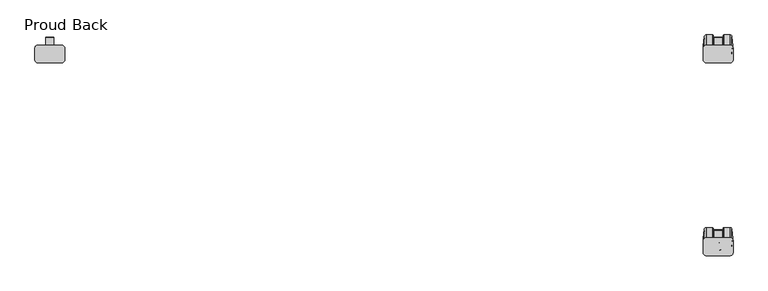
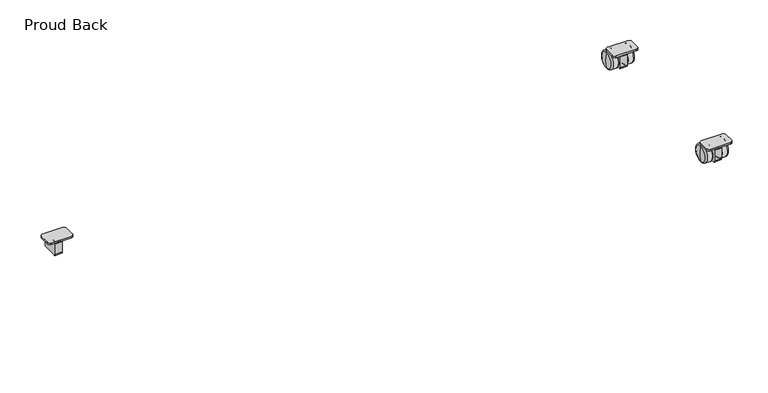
"""IFC4 building model written with IfcOpenShell, lengths in millimetres: furniture geometry, Haworth_BeHold_Modular_MobileCredenza : Proud Back."""

from ifc_helpers import new_model, si_unit, point, frame, frame_2d, origin, place, context, project, spatial, polyline, circle_curve, ellipse_curve, trimmed, segment, composite_curve, outline, extrude, source, transform, mapped, element, save
from ifc_brep_helpers import plane_surface, cylinder_surface, revolved_surface, advanced_brep


def proud_back_b9e9e623(model_context):
    return source(origin(), model_context, "Body", "SolidModel", [
        extrude(outline(composite_curve([segment(polyline([(432.996701, 432.4259308), (393.1088256, 432.4259308)]), True, "CONTINUOUS"), segment(trimmed(circle_curve(frame_2d((393.1088256, 437.9821808)), 5.55625), [point((393.1088256, 432.4259308))], [point((387.5525756, 437.9821808))], False, "CARTESIAN"), True, "CONTINUOUS"), segment(polyline([(387.5525756, 437.9821808), (387.5525756, 457.3689819)]), True, "CONTINUOUS"), segment(trimmed(circle_curve(frame_2d((393.1088256, 457.3689819)), 5.55625), [point((387.5525756, 457.3689819))], [point((393.1088256, 462.9252319))], False, "CARTESIAN"), True, "CONTINUOUS"), segment(polyline([(393.1088256, 462.9252319), (432.9541908, 462.9252319)]), True, "CONTINUOUS"), segment(trimmed(circle_curve(frame_2d((432.9541908, 457.3264717)), 5.5987602), [point((432.9541908, 462.9252319))], [point((438.552951, 457.3264717))], False, "CARTESIAN"), True, "CONTINUOUS"), segment(polyline([(438.552951, 457.3264717), (438.552951, 437.9821808)]), True, "CONTINUOUS"), segment(trimmed(circle_curve(frame_2d((432.996701, 437.9821808)), 5.55625), [point((438.552951, 437.9821808))], [point((432.996701, 432.4259308))], False, "CARTESIAN"), True, "CONTINUOUS")], self_intersect=False)), frame((0.0, 0.0, 41.1500016), z_axis=(0.0, 0.0, 1.0), x_axis=(1.0, 0.0, 0.0)), (0.0, 0.0, 1.0), 3.2999984),
        extrude(outline(composite_curve([segment(polyline([(440.8486725, 10.0187513), (440.8486725, 32.8500017), (455.7756683, 32.8500017), (455.7756683, 36.8500006), (461.8252991, 36.8500006)]), True, "CONTINUOUS"), segment(trimmed(circle_curve(frame_2d((461.8252991, 18.5003868)), 18.3496138), [point((461.8252991, 36.8500006))], [point((475.6031667, 30.6197387))], False, "CARTESIAN"), True, "CONTINUOUS"), segment(trimmed(circle_curve(frame_2d((474.2358868, 29.4170456)), 1.8209681), [point((475.6031667, 30.6197387))], [point((476.0516605, 29.5544899))], False, "CARTESIAN"), True, "CONTINUOUS"), segment(polyline([(476.0516605, 29.5544899), (476.357618, 25.5124927)]), True, "CONTINUOUS"), segment(trimmed(circle_curve(frame_2d((435.1272413, 22.3915745)), 41.3483263), [point((476.357618, 25.5124927))], [point((476.4755676, 22.3915745))], False, "CARTESIAN"), True, "CONTINUOUS"), segment(polyline([(476.4755676, 22.3915745), (476.4755676, 6.0500013), (444.8174225, 6.0500013)]), True, "CONTINUOUS"), segment(trimmed(circle_curve(frame_2d((444.8174225, 10.0187513)), 3.96875), [point((444.8174225, 6.0500013))], [point((440.8486725, 10.0187513))], False, "CARTESIAN"), True, "CONTINUOUS")], self_intersect=False)), frame((406.0537719, 0.0, 0.0), z_axis=(1.0, 0.0, 0.0), x_axis=(0.0, 1.0, 0.0)), (0.0, 0.0, 1.0), 13.9991455),
        advanced_brep(
        [(408.3792114, 447.675, 32.8500017), (413.0533447, 447.675, 32.8500017), (417.727478, 447.675, 32.8500017), (408.3792114, 447.675, 34.6500009), (417.727478, 447.675, 34.6500009), (406.829306, 447.675, 34.6500009), (419.2773834, 447.675, 34.6500009), (405.982846, 447.675, 38.6499997), (420.1238433, 447.675, 38.6499997), (408.5536193, 447.675, 38.6499997), (417.55307, 447.675, 38.6499997), (402.054016, 447.675, 41.1500016), (424.0526733, 447.675, 41.1500016), (413.0533447, 447.675, 41.1500016)],
        [
            (0, 1),
            (1, 2),
            (2, 0, circle_curve(frame((413.0533447, 447.675, 32.8500017), z_axis=(0.0, 0.0, -1.0), x_axis=(1.0, 0.0, 0.0)), 4.6741333)),
            (0, 2, circle_curve(frame((413.0533447, 447.675, 32.8500017), z_axis=(0.0, 0.0, -1.0), x_axis=(1.0, 0.0, 0.0)), 4.6741333)),
            (3, 0),
            (2, 4),
            (4, 3, circle_curve(frame((413.0533447, 447.675, 34.6500009), z_axis=(0.0, 0.0, -1.0), x_axis=(1.0, 0.0, 0.0)), 4.6741333)),
            (3, 4, circle_curve(frame((413.0533447, 447.675, 34.6500009), z_axis=(0.0, 0.0, -1.0), x_axis=(1.0, 0.0, 0.0)), 4.6741333)),
            (5, 3),
            (4, 6),
            (6, 5, circle_curve(frame((413.0533447, 447.675, 34.6500009), z_axis=(0.0, 0.0, -1.0), x_axis=(1.0, 0.0, 0.0)), 6.2240387)),
            (5, 6, circle_curve(frame((413.0533447, 447.675, 34.6500009), z_axis=(0.0, 0.0, -1.0), x_axis=(1.0, 0.0, 0.0)), 6.2240387)),
            (7, 5, circle_curve(frame((408.5516989, 447.675, 37.1040464), z_axis=(0.0, -1.0, 0.0), x_axis=(-1.0, 0.0, 0.0)), 2.9981622)),
            (6, 8, circle_curve(frame((417.5549905, 447.675, 37.1040464), z_axis=(0.0, -1.0, 0.0), x_axis=(1.0, 0.0, 0.0)), 2.9981622)),
            (8, 7, circle_curve(frame((413.0533447, 447.675, 38.6499997), z_axis=(0.0, 0.0, -1.0), x_axis=(1.0, 0.0, 0.0)), 7.0704987)),
            (7, 8, circle_curve(frame((413.0533447, 447.675, 38.6499997), z_axis=(0.0, 0.0, -1.0), x_axis=(1.0, 0.0, 0.0)), 7.0704987)),
            (9, 7),
            (8, 10),
            (10, 9, circle_curve(frame((413.0533447, 447.675, 38.6499997), z_axis=(0.0, 0.0, -1.0), x_axis=(1.0, 0.0, 0.0)), 4.4997253)),
            (9, 10, circle_curve(frame((413.0533447, 447.675, 38.6499997), z_axis=(0.0, 0.0, -1.0), x_axis=(1.0, 0.0, 0.0)), 4.4997253)),
            (11, 9),
            (10, 12),
            (12, 11, circle_curve(frame((413.0533447, 447.675, 41.1500016), z_axis=(0.0, 0.0, -1.0), x_axis=(1.0, 0.0, 0.0)), 10.9993286)),
            (11, 12, circle_curve(frame((413.0533447, 447.675, 41.1500016), z_axis=(0.0, 0.0, -1.0), x_axis=(1.0, 0.0, 0.0)), 10.9993286)),
            (13, 11),
            (12, 13),
        ],
        [
            plane_surface(frame((413.0533447, 447.675, 32.8500017), z_axis=(0.0, 0.0, -1.0), x_axis=(1.0, 0.0, 0.0))),
            cylinder_surface(frame((413.0533447, 447.675, 53.2629664), z_axis=(0.0, 0.0, 1.0), x_axis=(1.0, 0.0, 0.0)), 4.6741333),
            plane_surface(frame((413.0533447, 447.675, 34.6500009), z_axis=(0.0, 0.0, -1.0), x_axis=(1.0, 0.0, 0.0))),
            revolved_surface(trimmed(ellipse_curve(frame((417.5549905, 447.675, 37.1040464), z_axis=(0.0, -1.0, 0.0), x_axis=(1.0, 0.0, 0.0)), 2.9981622, 2.9981622), [point((419.2773834, 447.675, 34.6500009))], [point((420.1238433, 447.675, 38.6499997))], True, "CARTESIAN"), (413.0533447, 447.675, 53.2629664), (0.0, 0.0, 1.0)),
            plane_surface(frame((413.0533447, 447.675, 38.6499997), z_axis=(0.0, 0.0, 1.0), x_axis=(1.0, 0.0, 0.0))),
            revolved_surface(polyline([(417.55307, 447.675, 38.6499997), (424.0526733, 447.675, 41.1500016)]), (413.0533447, 447.675, 53.2629664), (0.0, 0.0, 1.0)),
            plane_surface(frame((413.0533447, 447.675, 41.1500016), z_axis=(0.0, 0.0, 1.0), x_axis=(1.0, 0.0, 0.0))),
        ],
        [
            (0, [[1, 2, 3]]),
            (0, [[-2, -1, 4]]),
            (1, [[5, -3, 6, 7]]),
            (1, [[-6, -4, -5, 8]]),
            (2, [[9, -7, 10, 11]]),
            (2, [[-10, -8, -9, 12]]),
            (3, [[13, -11, 14, 15]]),
            (3, [[-14, -12, -13, 16]]),
            (4, [[17, -15, 18, 19]]),
            (4, [[-18, -16, -17, 20]]),
            (5, [[21, -19, 22, 23]]),
            (5, [[-22, -20, -21, 24]]),
            (6, [[25, -23, 26]]),
            (6, [[-26, -24, -25]]),
        ],
    ),
        advanced_brep(
        [(389.4536834, 461.8252991, 2.8741812), (387.85372, 461.8252991, 18.500001), (389.4536834, 461.8252991, 34.1258208), (392.9567552, 461.8252991, 1.5e-06), (392.9567552, 461.8252991, 37.0000005), (403.1620879, 461.8252991, 1.5e-06), (403.1620879, 461.8252991, 37.0000005), (404.3527129, 461.8252991, 1.1906265), (404.3527129, 461.8252991, 35.8093755), (404.3527129, 461.8252991, 11.3500014), (404.3527129, 461.8252991, 25.6500006), (407.8524993, 461.8252991, 11.3500014), (407.8524993, 461.8252991, 25.6500006), (407.8524993, 461.8252991, 13.0457396), (407.8524993, 461.8252991, 23.9542625), (418.2530273, 461.8252991, 13.0457396), (418.2530273, 461.8252991, 23.9542625), (418.2530273, 461.8252991, 11.3500014), (418.2530273, 461.8252991, 25.6500006), (421.7528137, 461.8252991, 11.3500014), (421.7528137, 461.8252991, 25.6500006), (421.7528137, 461.8252991, 1.1906265), (421.7528137, 461.8252991, 35.8093755), (422.9434387, 461.8252991, 1.5e-06), (422.9434387, 461.8252991, 37.0000005), (433.1298304, 461.8252991, 1.5e-06), (433.1298304, 461.8252991, 37.0000005), (436.657107, 461.8252991, 2.894786), (436.657107, 461.8252991, 34.105216), (438.2529693, 461.8252991, 18.500001)],
        [
            (0, 1, circle_curve(frame((471.033307, 461.8252991, 19.1221269), z_axis=(0.0, 1.0, 0.0), x_axis=(-1.0, 0.0, 0.0)), 83.1819135)),
            (1, 2, circle_curve(frame((471.033307, 461.8252991, 17.8778751), z_axis=(0.0, 1.0, 0.0), x_axis=(-1.0, 0.0, 0.0)), 83.1819135)),
            (2, 0, circle_curve(frame((389.4536834, 461.8252991, 18.500001), z_axis=(-1.0, 0.0, 0.0), x_axis=(0.0, 0.0, 1.0)), 15.6258198)),
            (0, 2, circle_curve(frame((389.4536834, 461.8252991, 18.500001), z_axis=(-1.0, 0.0, 0.0), x_axis=(0.0, 0.0, 1.0)), 15.6258198)),
            (3, 0, circle_curve(frame((392.9567552, 461.8252991, 3.5718765), z_axis=(0.0, 1.0, 0.0), x_axis=(1.0, 0.0, 0.0)), 3.571875)),
            (2, 4, circle_curve(frame((392.9567552, 461.8252991, 33.4281255), z_axis=(0.0, 1.0, 0.0), x_axis=(1.0, 0.0, 0.0)), 3.571875)),
            (4, 3, circle_curve(frame((392.9567552, 461.8252991, 18.500001), z_axis=(-1.0, 0.0, 0.0), x_axis=(0.0, 0.0, 1.0)), 18.4999995)),
            (3, 4, circle_curve(frame((392.9567552, 461.8252991, 18.500001), z_axis=(-1.0, 0.0, 0.0), x_axis=(0.0, 0.0, 1.0)), 18.4999995)),
            (5, 3),
            (4, 6),
            (6, 5, circle_curve(frame((403.1620879, 461.8252991, 18.500001), z_axis=(-1.0, 0.0, 0.0), x_axis=(0.0, 0.0, 1.0)), 18.4999995)),
            (5, 6, circle_curve(frame((403.1620879, 461.8252991, 18.500001), z_axis=(-1.0, 0.0, 0.0), x_axis=(0.0, 0.0, 1.0)), 18.4999995)),
            (7, 5, circle_curve(frame((403.1620879, 461.8252991, 1.1906265), z_axis=(0.0, 1.0, 0.0), x_axis=(1.0, 0.0, 0.0)), 1.190625)),
            (6, 8, circle_curve(frame((403.1620879, 461.8252991, 35.8093755), z_axis=(0.0, 1.0, 0.0), x_axis=(1.0, 0.0, 0.0)), 1.190625)),
            (8, 7, circle_curve(frame((404.3527129, 461.8252991, 18.500001), z_axis=(-1.0, 0.0, 0.0), x_axis=(0.0, 0.0, 1.0)), 17.3093745)),
            (7, 8, circle_curve(frame((404.3527129, 461.8252991, 18.500001), z_axis=(-1.0, 0.0, 0.0), x_axis=(0.0, 0.0, 1.0)), 17.3093745)),
            (9, 7),
            (8, 10),
            (10, 9, circle_curve(frame((404.3527129, 461.8252991, 18.500001), z_axis=(-1.0, 0.0, 0.0), x_axis=(0.0, 0.0, 1.0)), 7.1499996)),
            (9, 10, circle_curve(frame((404.3527129, 461.8252991, 18.500001), z_axis=(-1.0, 0.0, 0.0), x_axis=(0.0, 0.0, 1.0)), 7.1499996)),
            (11, 9),
            (10, 12),
            (12, 11, circle_curve(frame((407.8524993, 461.8252991, 18.500001), z_axis=(-1.0, 0.0, 0.0), x_axis=(0.0, 0.0, 1.0)), 7.1499996)),
            (11, 12, circle_curve(frame((407.8524993, 461.8252991, 18.500001), z_axis=(-1.0, 0.0, 0.0), x_axis=(0.0, 0.0, 1.0)), 7.1499996)),
            (13, 11),
            (12, 14),
            (14, 13, circle_curve(frame((407.8524993, 461.8252991, 18.500001), z_axis=(-1.0, 0.0, 0.0), x_axis=(0.0, 0.0, 1.0)), 5.4542615)),
            (13, 14, circle_curve(frame((407.8524993, 461.8252991, 18.500001), z_axis=(-1.0, 0.0, 0.0), x_axis=(0.0, 0.0, 1.0)), 5.4542615)),
            (15, 13),
            (14, 16),
            (16, 15, circle_curve(frame((418.2530273, 461.8252991, 18.500001), z_axis=(-1.0, 0.0, 0.0), x_axis=(0.0, 0.0, 1.0)), 5.4542615)),
            (15, 16, circle_curve(frame((418.2530273, 461.8252991, 18.500001), z_axis=(-1.0, 0.0, 0.0), x_axis=(0.0, 0.0, 1.0)), 5.4542615)),
            (17, 15),
            (16, 18),
            (18, 17, circle_curve(frame((418.2530273, 461.8252991, 18.500001), z_axis=(-1.0, 0.0, 0.0), x_axis=(0.0, 0.0, 1.0)), 7.1499996)),
            (17, 18, circle_curve(frame((418.2530273, 461.8252991, 18.500001), z_axis=(-1.0, 0.0, 0.0), x_axis=(0.0, 0.0, 1.0)), 7.1499996)),
            (19, 17),
            (18, 20),
            (20, 19, circle_curve(frame((421.7528137, 461.8252991, 18.500001), z_axis=(-1.0, 0.0, 0.0), x_axis=(0.0, 0.0, 1.0)), 7.1499996)),
            (19, 20, circle_curve(frame((421.7528137, 461.8252991, 18.500001), z_axis=(-1.0, 0.0, 0.0), x_axis=(0.0, 0.0, 1.0)), 7.1499996)),
            (21, 19),
            (20, 22),
            (22, 21, circle_curve(frame((421.7528137, 461.8252991, 18.500001), z_axis=(-1.0, 0.0, 0.0), x_axis=(0.0, 0.0, 1.0)), 17.3093745)),
            (21, 22, circle_curve(frame((421.7528137, 461.8252991, 18.500001), z_axis=(-1.0, 0.0, 0.0), x_axis=(0.0, 0.0, 1.0)), 17.3093745)),
            (23, 21, circle_curve(frame((422.9434387, 461.8252991, 1.1906265), z_axis=(0.0, 1.0, 0.0), x_axis=(1.0, 0.0, 0.0)), 1.190625)),
            (22, 24, circle_curve(frame((422.9434387, 461.8252991, 35.8093755), z_axis=(0.0, 1.0, 0.0), x_axis=(1.0, 0.0, 0.0)), 1.190625)),
            (24, 23, circle_curve(frame((422.9434387, 461.8252991, 18.500001), z_axis=(-1.0, 0.0, 0.0), x_axis=(0.0, 0.0, 1.0)), 18.4999995)),
            (23, 24, circle_curve(frame((422.9434387, 461.8252991, 18.500001), z_axis=(-1.0, 0.0, 0.0), x_axis=(0.0, 0.0, 1.0)), 18.4999995)),
            (25, 23),
            (24, 26),
            (26, 25, circle_curve(frame((433.1298304, 461.8252991, 18.500001), z_axis=(-1.0, 0.0, 0.0), x_axis=(0.0, 0.0, 1.0)), 18.4999995)),
            (25, 26, circle_curve(frame((433.1298304, 461.8252991, 18.500001), z_axis=(-1.0, 0.0, 0.0), x_axis=(0.0, 0.0, 1.0)), 18.4999995)),
            (27, 25, circle_curve(frame((433.1298304, 461.8252991, 3.5963759), z_axis=(0.0, 1.0, 0.0), x_axis=(1.0, 0.0, 0.0)), 3.5963744)),
            (26, 28, circle_curve(frame((433.1298304, 461.8252991, 33.4036261), z_axis=(0.0, 1.0, 0.0), x_axis=(1.0, 0.0, 0.0)), 3.5963744)),
            (28, 27, circle_curve(frame((436.657107, 461.8252991, 18.500001), z_axis=(-1.0, 0.0, 0.0), x_axis=(0.0, 0.0, 1.0)), 15.605215)),
            (27, 28, circle_curve(frame((436.657107, 461.8252991, 18.500001), z_axis=(-1.0, 0.0, 0.0), x_axis=(0.0, 0.0, 1.0)), 15.605215)),
            (29, 27, circle_curve(frame((355.0733823, 461.8252991, 19.1221269), z_axis=(0.0, 1.0, 0.0), x_axis=(1.0, 0.0, 0.0)), 83.1819135)),
            (28, 29, circle_curve(frame((355.0733823, 461.8252991, 17.8778751), z_axis=(0.0, 1.0, 0.0), x_axis=(1.0, 0.0, 0.0)), 83.1819135)),
        ],
        [
            revolved_surface(trimmed(ellipse_curve(frame((471.033307, 461.8252991, 17.8778751), z_axis=(0.0, 1.0, 0.0), x_axis=(-1.0, 0.0, 0.0)), 83.1819135, 83.1819135), [point((387.85372, 461.8252991, 18.500001))], [point((389.4536834, 461.8252991, 34.1258208))], True, "CARTESIAN"), (364.5419293, 461.8252991, 18.500001), (1.0, 0.0, 0.0)),
            revolved_surface(trimmed(ellipse_curve(frame((392.9567552, 461.8252991, 33.4281255), z_axis=(0.0, 1.0, 0.0), x_axis=(1.0, 0.0, 0.0)), 3.571875, 3.571875), [point((389.4536834, 461.8252991, 34.1258208))], [point((392.9567552, 461.8252991, 37.0000005))], True, "CARTESIAN"), (364.5419293, 461.8252991, 18.500001), (1.0, 0.0, 0.0)),
            cylinder_surface(frame((364.5419293, 461.8252991, 18.500001), z_axis=(1.0, 0.0, 0.0), x_axis=(0.0, 0.0, 1.0)), 18.4999995),
            revolved_surface(trimmed(ellipse_curve(frame((403.1620879, 461.8252991, 35.8093755), z_axis=(0.0, 1.0, 0.0), x_axis=(1.0, 0.0, 0.0)), 1.190625, 1.190625), [point((403.1620879, 461.8252991, 37.0000005))], [point((404.3527129, 461.8252991, 35.8093755))], True, "CARTESIAN"), (364.5419293, 461.8252991, 18.500001), (1.0, 0.0, 0.0)),
            plane_surface(frame((404.3527129, 461.8252991, 18.500001), z_axis=(1.0, 0.0, 0.0), x_axis=(0.0, 0.0, 1.0))),
            cylinder_surface(frame((364.5419293, 461.8252991, 18.500001), z_axis=(1.0, 0.0, 0.0), x_axis=(0.0, 0.0, 1.0)), 7.1499996),
            plane_surface(frame((407.8524993, 461.8252991, 18.500001), z_axis=(1.0, 0.0, 0.0), x_axis=(0.0, 0.0, 1.0))),
            cylinder_surface(frame((364.5419293, 461.8252991, 18.500001), z_axis=(1.0, 0.0, 0.0), x_axis=(0.0, 0.0, 1.0)), 5.4542615),
            plane_surface(frame((418.2530273, 461.8252991, 18.500001), z_axis=(-1.0, 0.0, 0.0), x_axis=(0.0, 0.0, 1.0))),
            plane_surface(frame((421.7528137, 461.8252991, 18.500001), z_axis=(-1.0, 0.0, 0.0), x_axis=(0.0, 0.0, 1.0))),
            revolved_surface(trimmed(ellipse_curve(frame((422.9434387, 461.8252991, 35.8093755), z_axis=(0.0, 1.0, 0.0), x_axis=(1.0, 0.0, 0.0)), 1.190625, 1.190625), [point((421.7528137, 461.8252991, 35.8093755))], [point((422.9434387, 461.8252991, 37.0000005))], True, "CARTESIAN"), (364.5419293, 461.8252991, 18.500001), (1.0, 0.0, 0.0)),
            revolved_surface(trimmed(ellipse_curve(frame((433.1298304, 461.8252991, 33.4036261), z_axis=(0.0, 1.0, 0.0), x_axis=(1.0, 0.0, 0.0)), 3.5963744, 3.5963744), [point((433.1298304, 461.8252991, 37.0000005))], [point((436.657107, 461.8252991, 34.105216))], True, "CARTESIAN"), (364.5419293, 461.8252991, 18.500001), (1.0, 0.0, 0.0)),
            revolved_surface(trimmed(ellipse_curve(frame((355.0733823, 461.8252991, 17.8778751), z_axis=(0.0, 1.0, 0.0), x_axis=(1.0, 0.0, 0.0)), 83.1819135, 83.1819135), [point((436.657107, 461.8252991, 34.105216))], [point((438.2529693, 461.8252991, 18.500001))], True, "CARTESIAN"), (364.5419293, 461.8252991, 18.500001), (1.0, 0.0, 0.0)),
        ],
        [
            (0, [[1, 2, 3]]),
            (0, [[-2, -1, 4]]),
            (1, [[5, -3, 6, 7]]),
            (1, [[-6, -4, -5, 8]]),
            (2, [[9, -7, 10, 11]]),
            (2, [[-10, -8, -9, 12]]),
            (3, [[13, -11, 14, 15]]),
            (3, [[-14, -12, -13, 16]]),
            (4, [[17, -15, 18, 19]]),
            (4, [[-18, -16, -17, 20]]),
            (5, [[21, -19, 22, 23]]),
            (5, [[-22, -20, -21, 24]]),
            (6, [[25, -23, 26, 27]]),
            (6, [[-26, -24, -25, 28]]),
            (7, [[29, -27, 30, 31]]),
            (7, [[-30, -28, -29, 32]]),
            (8, [[33, -31, 34, 35]]),
            (8, [[-34, -32, -33, 36]]),
            (5, [[37, -35, 38, 39]]),
            (5, [[-38, -36, -37, 40]]),
            (9, [[41, -39, 42, 43]]),
            (9, [[-42, -40, -41, 44]]),
            (10, [[45, -43, 46, 47]]),
            (10, [[-46, -44, -45, 48]]),
            (2, [[49, -47, 50, 51]]),
            (2, [[-50, -48, -49, 52]]),
            (11, [[53, -51, 54, 55]]),
            (11, [[-54, -52, -53, 56]]),
            (12, [[57, -55, 58]]),
            (12, [[-58, -56, -57]]),
        ],
    ),
        extrude(outline(composite_curve([segment(polyline([(432.996701, 103.8134308), (393.1088256, 103.8134308)]), True, "CONTINUOUS"), segment(trimmed(circle_curve(frame_2d((393.1088256, 109.3696808)), 5.55625), [point((393.1088256, 103.8134308))], [point((387.5525756, 109.3696808))], False, "CARTESIAN"), True, "CONTINUOUS"), segment(polyline([(387.5525756, 109.3696808), (387.5525756, 128.7564819)]), True, "CONTINUOUS"), segment(trimmed(circle_curve(frame_2d((393.1088256, 128.7564819)), 5.55625), [point((387.5525756, 128.7564819))], [point((393.1088256, 134.3127319))], False, "CARTESIAN"), True, "CONTINUOUS"), segment(polyline([(393.1088256, 134.3127319), (432.9541908, 134.3127319)]), True, "CONTINUOUS"), segment(trimmed(circle_curve(frame_2d((432.9541908, 128.7139717)), 5.5987602), [point((432.9541908, 134.3127319))], [point((438.552951, 128.7139717))], False, "CARTESIAN"), True, "CONTINUOUS"), segment(polyline([(438.552951, 128.7139717), (438.552951, 109.3696808)]), True, "CONTINUOUS"), segment(trimmed(circle_curve(frame_2d((432.996701, 109.3696808)), 5.55625), [point((438.552951, 109.3696808))], [point((432.996701, 103.8134308))], False, "CARTESIAN"), True, "CONTINUOUS")], self_intersect=False)), frame((0.0, 0.0, 41.1500016), z_axis=(0.0, 0.0, 1.0), x_axis=(1.0, 0.0, 0.0)), (0.0, 0.0, 1.0), 3.2999984),
        extrude(outline(composite_curve([segment(polyline([(112.2361725, 10.0187513), (112.2361725, 32.8500017), (127.1631683, 32.8500017), (127.1631683, 36.8500006), (133.2127991, 36.8500006)]), True, "CONTINUOUS"), segment(trimmed(circle_curve(frame_2d((133.2127991, 18.5003868)), 18.3496138), [point((133.2127991, 36.8500006))], [point((146.9906667, 30.6197387))], False, "CARTESIAN"), True, "CONTINUOUS"), segment(trimmed(circle_curve(frame_2d((145.6233868, 29.4170456)), 1.8209681), [point((146.9906667, 30.6197387))], [point((147.4391605, 29.5544899))], False, "CARTESIAN"), True, "CONTINUOUS"), segment(polyline([(147.4391605, 29.5544899), (147.745118, 25.5124927)]), True, "CONTINUOUS"), segment(trimmed(circle_curve(frame_2d((106.5147413, 22.3915745)), 41.3483263), [point((147.745118, 25.5124927))], [point((147.8630676, 22.3915745))], False, "CARTESIAN"), True, "CONTINUOUS"), segment(polyline([(147.8630676, 22.3915745), (147.8630676, 6.0500013), (116.2049225, 6.0500013)]), True, "CONTINUOUS"), segment(trimmed(circle_curve(frame_2d((116.2049225, 10.0187513)), 3.96875), [point((116.2049225, 6.0500013))], [point((112.2361725, 10.0187513))], False, "CARTESIAN"), True, "CONTINUOUS")], self_intersect=False)), frame((406.0537719, 0.0, 0.0), z_axis=(1.0, 0.0, 0.0), x_axis=(0.0, 1.0, 0.0)), (0.0, 0.0, 1.0), 13.9991455),
        advanced_brep(
        [(408.3792114, 119.0625, 32.8500017), (413.0533447, 119.0625, 32.8500017), (417.727478, 119.0625, 32.8500017), (408.3792114, 119.0625, 34.6500009), (417.727478, 119.0625, 34.6500009), (406.829306, 119.0625, 34.6500009), (419.2773834, 119.0625, 34.6500009), (405.982846, 119.0625, 38.6499997), (420.1238433, 119.0625, 38.6499997), (408.5536193, 119.0625, 38.6499997), (417.55307, 119.0625, 38.6499997), (402.054016, 119.0625, 41.1500016), (424.0526733, 119.0625, 41.1500016), (413.0533447, 119.0625, 41.1500016)],
        [
            (0, 1),
            (1, 2),
            (2, 0, circle_curve(frame((413.0533447, 119.0625, 32.8500017), z_axis=(0.0, 0.0, -1.0), x_axis=(1.0, 0.0, 0.0)), 4.6741333)),
            (0, 2, circle_curve(frame((413.0533447, 119.0625, 32.8500017), z_axis=(0.0, 0.0, -1.0), x_axis=(1.0, 0.0, 0.0)), 4.6741333)),
            (3, 0),
            (2, 4),
            (4, 3, circle_curve(frame((413.0533447, 119.0625, 34.6500009), z_axis=(0.0, 0.0, -1.0), x_axis=(1.0, 0.0, 0.0)), 4.6741333)),
            (3, 4, circle_curve(frame((413.0533447, 119.0625, 34.6500009), z_axis=(0.0, 0.0, -1.0), x_axis=(1.0, 0.0, 0.0)), 4.6741333)),
            (5, 3),
            (4, 6),
            (6, 5, circle_curve(frame((413.0533447, 119.0625, 34.6500009), z_axis=(0.0, 0.0, -1.0), x_axis=(1.0, 0.0, 0.0)), 6.2240387)),
            (5, 6, circle_curve(frame((413.0533447, 119.0625, 34.6500009), z_axis=(0.0, 0.0, -1.0), x_axis=(1.0, 0.0, 0.0)), 6.2240387)),
            (7, 5, circle_curve(frame((408.5516989, 119.0625, 37.1040464), z_axis=(0.0, -1.0, 0.0), x_axis=(-1.0, 0.0, 0.0)), 2.9981622)),
            (6, 8, circle_curve(frame((417.5549905, 119.0625, 37.1040464), z_axis=(0.0, -1.0, 0.0), x_axis=(1.0, 0.0, 0.0)), 2.9981622)),
            (8, 7, circle_curve(frame((413.0533447, 119.0625, 38.6499997), z_axis=(0.0, 0.0, -1.0), x_axis=(1.0, 0.0, 0.0)), 7.0704987)),
            (7, 8, circle_curve(frame((413.0533447, 119.0625, 38.6499997), z_axis=(0.0, 0.0, -1.0), x_axis=(1.0, 0.0, 0.0)), 7.0704987)),
            (9, 7),
            (8, 10),
            (10, 9, circle_curve(frame((413.0533447, 119.0625, 38.6499997), z_axis=(0.0, 0.0, -1.0), x_axis=(1.0, 0.0, 0.0)), 4.4997253)),
            (9, 10, circle_curve(frame((413.0533447, 119.0625, 38.6499997), z_axis=(0.0, 0.0, -1.0), x_axis=(1.0, 0.0, 0.0)), 4.4997253)),
            (11, 9),
            (10, 12),
            (12, 11, circle_curve(frame((413.0533447, 119.0625, 41.1500016), z_axis=(0.0, 0.0, -1.0), x_axis=(1.0, 0.0, 0.0)), 10.9993286)),
            (11, 12, circle_curve(frame((413.0533447, 119.0625, 41.1500016), z_axis=(0.0, 0.0, -1.0), x_axis=(1.0, 0.0, 0.0)), 10.9993286)),
            (13, 11),
            (12, 13),
        ],
        [
            plane_surface(frame((413.0533447, 119.0625, 32.8500017), z_axis=(0.0, 0.0, -1.0), x_axis=(1.0, 0.0, 0.0))),
            cylinder_surface(frame((413.0533447, 119.0625, 53.2629664), z_axis=(0.0, 0.0, 1.0), x_axis=(1.0, 0.0, 0.0)), 4.6741333),
            plane_surface(frame((413.0533447, 119.0625, 34.6500009), z_axis=(0.0, 0.0, -1.0), x_axis=(1.0, 0.0, 0.0))),
            revolved_surface(trimmed(ellipse_curve(frame((417.5549905, 119.0625, 37.1040464), z_axis=(0.0, -1.0, 0.0), x_axis=(1.0, 0.0, 0.0)), 2.9981622, 2.9981622), [point((419.2773834, 119.0625, 34.6500009))], [point((420.1238433, 119.0625, 38.6499997))], True, "CARTESIAN"), (413.0533447, 119.0625, 53.2629664), (0.0, 0.0, 1.0)),
            plane_surface(frame((413.0533447, 119.0625, 38.6499997), z_axis=(0.0, 0.0, 1.0), x_axis=(1.0, 0.0, 0.0))),
            revolved_surface(polyline([(417.55307, 119.0625, 38.6499997), (424.0526733, 119.0625, 41.1500016)]), (413.0533447, 119.0625, 53.2629664), (0.0, 0.0, 1.0)),
            plane_surface(frame((413.0533447, 119.0625, 41.1500016), z_axis=(0.0, 0.0, 1.0), x_axis=(1.0, 0.0, 0.0))),
        ],
        [
            (0, [[1, 2, 3]]),
            (0, [[-2, -1, 4]]),
            (1, [[5, -3, 6, 7]]),
            (1, [[-6, -4, -5, 8]]),
            (2, [[9, -7, 10, 11]]),
            (2, [[-10, -8, -9, 12]]),
            (3, [[13, -11, 14, 15]]),
            (3, [[-14, -12, -13, 16]]),
            (4, [[17, -15, 18, 19]]),
            (4, [[-18, -16, -17, 20]]),
            (5, [[21, -19, 22, 23]]),
            (5, [[-22, -20, -21, 24]]),
            (6, [[25, -23, 26]]),
            (6, [[-26, -24, -25]]),
        ],
    ),
        advanced_brep(
        [(389.4536834, 133.2127991, 2.8741812), (387.85372, 133.2127991, 18.500001), (389.4536834, 133.2127991, 34.1258208), (392.9567552, 133.2127991, 1.5e-06), (392.9567552, 133.2127991, 37.0000005), (403.1620879, 133.2127991, 1.5e-06), (403.1620879, 133.2127991, 37.0000005), (404.3527129, 133.2127991, 1.1906265), (404.3527129, 133.2127991, 35.8093755), (404.3527129, 133.2127991, 11.3500014), (404.3527129, 133.2127991, 25.6500006), (407.8524993, 133.2127991, 11.3500014), (407.8524993, 133.2127991, 25.6500006), (407.8524993, 133.2127991, 13.0457396), (407.8524993, 133.2127991, 23.9542625), (418.2530273, 133.2127991, 13.0457396), (418.2530273, 133.2127991, 23.9542625), (418.2530273, 133.2127991, 11.3500014), (418.2530273, 133.2127991, 25.6500006), (421.7528137, 133.2127991, 11.3500014), (421.7528137, 133.2127991, 25.6500006), (421.7528137, 133.2127991, 1.1906265), (421.7528137, 133.2127991, 35.8093755), (422.9434387, 133.2127991, 1.5e-06), (422.9434387, 133.2127991, 37.0000005), (433.1298304, 133.2127991, 1.5e-06), (433.1298304, 133.2127991, 37.0000005), (436.657107, 133.2127991, 2.894786), (436.657107, 133.2127991, 34.105216), (438.2529693, 133.2127991, 18.500001)],
        [
            (0, 1, circle_curve(frame((471.033307, 133.2127991, 19.1221269), z_axis=(0.0, 1.0, 0.0), x_axis=(-1.0, 0.0, 0.0)), 83.1819135)),
            (1, 2, circle_curve(frame((471.033307, 133.2127991, 17.8778751), z_axis=(0.0, 1.0, 0.0), x_axis=(-1.0, 0.0, 0.0)), 83.1819135)),
            (2, 0, circle_curve(frame((389.4536834, 133.2127991, 18.500001), z_axis=(-1.0, 0.0, 0.0), x_axis=(0.0, 0.0, 1.0)), 15.6258198)),
            (0, 2, circle_curve(frame((389.4536834, 133.2127991, 18.500001), z_axis=(-1.0, 0.0, 0.0), x_axis=(0.0, 0.0, 1.0)), 15.6258198)),
            (3, 0, circle_curve(frame((392.9567552, 133.2127991, 3.5718765), z_axis=(0.0, 1.0, 0.0), x_axis=(1.0, 0.0, 0.0)), 3.571875)),
            (2, 4, circle_curve(frame((392.9567552, 133.2127991, 33.4281255), z_axis=(0.0, 1.0, 0.0), x_axis=(1.0, 0.0, 0.0)), 3.571875)),
            (4, 3, circle_curve(frame((392.9567552, 133.2127991, 18.500001), z_axis=(-1.0, 0.0, 0.0), x_axis=(0.0, 0.0, 1.0)), 18.4999995)),
            (3, 4, circle_curve(frame((392.9567552, 133.2127991, 18.500001), z_axis=(-1.0, 0.0, 0.0), x_axis=(0.0, 0.0, 1.0)), 18.4999995)),
            (5, 3),
            (4, 6),
            (6, 5, circle_curve(frame((403.1620879, 133.2127991, 18.500001), z_axis=(-1.0, 0.0, 0.0), x_axis=(0.0, 0.0, 1.0)), 18.4999995)),
            (5, 6, circle_curve(frame((403.1620879, 133.2127991, 18.500001), z_axis=(-1.0, 0.0, 0.0), x_axis=(0.0, 0.0, 1.0)), 18.4999995)),
            (7, 5, circle_curve(frame((403.1620879, 133.2127991, 1.1906265), z_axis=(0.0, 1.0, 0.0), x_axis=(1.0, 0.0, 0.0)), 1.190625)),
            (6, 8, circle_curve(frame((403.1620879, 133.2127991, 35.8093755), z_axis=(0.0, 1.0, 0.0), x_axis=(1.0, 0.0, 0.0)), 1.190625)),
            (8, 7, circle_curve(frame((404.3527129, 133.2127991, 18.500001), z_axis=(-1.0, 0.0, 0.0), x_axis=(0.0, 0.0, 1.0)), 17.3093745)),
            (7, 8, circle_curve(frame((404.3527129, 133.2127991, 18.500001), z_axis=(-1.0, 0.0, 0.0), x_axis=(0.0, 0.0, 1.0)), 17.3093745)),
            (9, 7),
            (8, 10),
            (10, 9, circle_curve(frame((404.3527129, 133.2127991, 18.500001), z_axis=(-1.0, 0.0, 0.0), x_axis=(0.0, 0.0, 1.0)), 7.1499996)),
            (9, 10, circle_curve(frame((404.3527129, 133.2127991, 18.500001), z_axis=(-1.0, 0.0, 0.0), x_axis=(0.0, 0.0, 1.0)), 7.1499996)),
            (11, 9),
            (10, 12),
            (12, 11, circle_curve(frame((407.8524993, 133.2127991, 18.500001), z_axis=(-1.0, 0.0, 0.0), x_axis=(0.0, 0.0, 1.0)), 7.1499996)),
            (11, 12, circle_curve(frame((407.8524993, 133.2127991, 18.500001), z_axis=(-1.0, 0.0, 0.0), x_axis=(0.0, 0.0, 1.0)), 7.1499996)),
            (13, 11),
            (12, 14),
            (14, 13, circle_curve(frame((407.8524993, 133.2127991, 18.500001), z_axis=(-1.0, 0.0, 0.0), x_axis=(0.0, 0.0, 1.0)), 5.4542615)),
            (13, 14, circle_curve(frame((407.8524993, 133.2127991, 18.500001), z_axis=(-1.0, 0.0, 0.0), x_axis=(0.0, 0.0, 1.0)), 5.4542615)),
            (15, 13),
            (14, 16),
            (16, 15, circle_curve(frame((418.2530273, 133.2127991, 18.500001), z_axis=(-1.0, 0.0, 0.0), x_axis=(0.0, 0.0, 1.0)), 5.4542615)),
            (15, 16, circle_curve(frame((418.2530273, 133.2127991, 18.500001), z_axis=(-1.0, 0.0, 0.0), x_axis=(0.0, 0.0, 1.0)), 5.4542615)),
            (17, 15),
            (16, 18),
            (18, 17, circle_curve(frame((418.2530273, 133.2127991, 18.500001), z_axis=(-1.0, 0.0, 0.0), x_axis=(0.0, 0.0, 1.0)), 7.1499996)),
            (17, 18, circle_curve(frame((418.2530273, 133.2127991, 18.500001), z_axis=(-1.0, 0.0, 0.0), x_axis=(0.0, 0.0, 1.0)), 7.1499996)),
            (19, 17),
            (18, 20),
            (20, 19, circle_curve(frame((421.7528137, 133.2127991, 18.500001), z_axis=(-1.0, 0.0, 0.0), x_axis=(0.0, 0.0, 1.0)), 7.1499996)),
            (19, 20, circle_curve(frame((421.7528137, 133.2127991, 18.500001), z_axis=(-1.0, 0.0, 0.0), x_axis=(0.0, 0.0, 1.0)), 7.1499996)),
            (21, 19),
            (20, 22),
            (22, 21, circle_curve(frame((421.7528137, 133.2127991, 18.500001), z_axis=(-1.0, 0.0, 0.0), x_axis=(0.0, 0.0, 1.0)), 17.3093745)),
            (21, 22, circle_curve(frame((421.7528137, 133.2127991, 18.500001), z_axis=(-1.0, 0.0, 0.0), x_axis=(0.0, 0.0, 1.0)), 17.3093745)),
            (23, 21, circle_curve(frame((422.9434387, 133.2127991, 1.1906265), z_axis=(0.0, 1.0, 0.0), x_axis=(1.0, 0.0, 0.0)), 1.190625)),
            (22, 24, circle_curve(frame((422.9434387, 133.2127991, 35.8093755), z_axis=(0.0, 1.0, 0.0), x_axis=(1.0, 0.0, 0.0)), 1.190625)),
            (24, 23, circle_curve(frame((422.9434387, 133.2127991, 18.500001), z_axis=(-1.0, 0.0, 0.0), x_axis=(0.0, 0.0, 1.0)), 18.4999995)),
            (23, 24, circle_curve(frame((422.9434387, 133.2127991, 18.500001), z_axis=(-1.0, 0.0, 0.0), x_axis=(0.0, 0.0, 1.0)), 18.4999995)),
            (25, 23),
            (24, 26),
            (26, 25, circle_curve(frame((433.1298304, 133.2127991, 18.500001), z_axis=(-1.0, 0.0, 0.0), x_axis=(0.0, 0.0, 1.0)), 18.4999995)),
            (25, 26, circle_curve(frame((433.1298304, 133.2127991, 18.500001), z_axis=(-1.0, 0.0, 0.0), x_axis=(0.0, 0.0, 1.0)), 18.4999995)),
            (27, 25, circle_curve(frame((433.1298304, 133.2127991, 3.5963759), z_axis=(0.0, 1.0, 0.0), x_axis=(1.0, 0.0, 0.0)), 3.5963744)),
            (26, 28, circle_curve(frame((433.1298304, 133.2127991, 33.4036261), z_axis=(0.0, 1.0, 0.0), x_axis=(1.0, 0.0, 0.0)), 3.5963744)),
            (28, 27, circle_curve(frame((436.657107, 133.2127991, 18.500001), z_axis=(-1.0, 0.0, 0.0), x_axis=(0.0, 0.0, 1.0)), 15.605215)),
            (27, 28, circle_curve(frame((436.657107, 133.2127991, 18.500001), z_axis=(-1.0, 0.0, 0.0), x_axis=(0.0, 0.0, 1.0)), 15.605215)),
            (29, 27, circle_curve(frame((355.0733823, 133.2127991, 19.1221269), z_axis=(0.0, 1.0, 0.0), x_axis=(1.0, 0.0, 0.0)), 83.1819135)),
            (28, 29, circle_curve(frame((355.0733823, 133.2127991, 17.8778751), z_axis=(0.0, 1.0, 0.0), x_axis=(1.0, 0.0, 0.0)), 83.1819135)),
        ],
        [
            revolved_surface(trimmed(ellipse_curve(frame((471.033307, 133.2127991, 17.8778751), z_axis=(0.0, 1.0, 0.0), x_axis=(-1.0, 0.0, 0.0)), 83.1819135, 83.1819135), [point((387.85372, 133.2127991, 18.500001))], [point((389.4536834, 133.2127991, 34.1258208))], True, "CARTESIAN"), (364.5419293, 133.2127991, 18.500001), (1.0, 0.0, 0.0)),
            revolved_surface(trimmed(ellipse_curve(frame((392.9567552, 133.2127991, 33.4281255), z_axis=(0.0, 1.0, 0.0), x_axis=(1.0, 0.0, 0.0)), 3.571875, 3.571875), [point((389.4536834, 133.2127991, 34.1258208))], [point((392.9567552, 133.2127991, 37.0000005))], True, "CARTESIAN"), (364.5419293, 133.2127991, 18.500001), (1.0, 0.0, 0.0)),
            cylinder_surface(frame((364.5419293, 133.2127991, 18.500001), z_axis=(1.0, 0.0, 0.0), x_axis=(0.0, 0.0, 1.0)), 18.4999995),
            revolved_surface(trimmed(ellipse_curve(frame((403.1620879, 133.2127991, 35.8093755), z_axis=(0.0, 1.0, 0.0), x_axis=(1.0, 0.0, 0.0)), 1.190625, 1.190625), [point((403.1620879, 133.2127991, 37.0000005))], [point((404.3527129, 133.2127991, 35.8093755))], True, "CARTESIAN"), (364.5419293, 133.2127991, 18.500001), (1.0, 0.0, 0.0)),
            plane_surface(frame((404.3527129, 133.2127991, 18.500001), z_axis=(1.0, 0.0, 0.0), x_axis=(0.0, 0.0, 1.0))),
            cylinder_surface(frame((364.5419293, 133.2127991, 18.500001), z_axis=(1.0, 0.0, 0.0), x_axis=(0.0, 0.0, 1.0)), 7.1499996),
            plane_surface(frame((407.8524993, 133.2127991, 18.500001), z_axis=(1.0, 0.0, 0.0), x_axis=(0.0, 0.0, 1.0))),
            cylinder_surface(frame((364.5419293, 133.2127991, 18.500001), z_axis=(1.0, 0.0, 0.0), x_axis=(0.0, 0.0, 1.0)), 5.4542615),
            plane_surface(frame((418.2530273, 133.2127991, 18.500001), z_axis=(-1.0, 0.0, 0.0), x_axis=(0.0, 0.0, 1.0))),
            plane_surface(frame((421.7528137, 133.2127991, 18.500001), z_axis=(-1.0, 0.0, 0.0), x_axis=(0.0, 0.0, 1.0))),
            revolved_surface(trimmed(ellipse_curve(frame((422.9434387, 133.2127991, 35.8093755), z_axis=(0.0, 1.0, 0.0), x_axis=(1.0, 0.0, 0.0)), 1.190625, 1.190625), [point((421.7528137, 133.2127991, 35.8093755))], [point((422.9434387, 133.2127991, 37.0000005))], True, "CARTESIAN"), (364.5419293, 133.2127991, 18.500001), (1.0, 0.0, 0.0)),
            revolved_surface(trimmed(ellipse_curve(frame((433.1298304, 133.2127991, 33.4036261), z_axis=(0.0, 1.0, 0.0), x_axis=(1.0, 0.0, 0.0)), 3.5963744, 3.5963744), [point((433.1298304, 133.2127991, 37.0000005))], [point((436.657107, 133.2127991, 34.105216))], True, "CARTESIAN"), (364.5419293, 133.2127991, 18.500001), (1.0, 0.0, 0.0)),
            revolved_surface(trimmed(ellipse_curve(frame((355.0733823, 133.2127991, 17.8778751), z_axis=(0.0, 1.0, 0.0), x_axis=(1.0, 0.0, 0.0)), 83.1819135, 83.1819135), [point((436.657107, 133.2127991, 34.105216))], [point((438.2529693, 133.2127991, 18.500001))], True, "CARTESIAN"), (364.5419293, 133.2127991, 18.500001), (1.0, 0.0, 0.0)),
        ],
        [
            (0, [[1, 2, 3]]),
            (0, [[-2, -1, 4]]),
            (1, [[5, -3, 6, 7]]),
            (1, [[-6, -4, -5, 8]]),
            (2, [[9, -7, 10, 11]]),
            (2, [[-10, -8, -9, 12]]),
            (3, [[13, -11, 14, 15]]),
            (3, [[-14, -12, -13, 16]]),
            (4, [[17, -15, 18, 19]]),
            (4, [[-18, -16, -17, 20]]),
            (5, [[21, -19, 22, 23]]),
            (5, [[-22, -20, -21, 24]]),
            (6, [[25, -23, 26, 27]]),
            (6, [[-26, -24, -25, 28]]),
            (7, [[29, -27, 30, 31]]),
            (7, [[-30, -28, -29, 32]]),
            (8, [[33, -31, 34, 35]]),
            (8, [[-34, -32, -33, 36]]),
            (5, [[37, -35, 38, 39]]),
            (5, [[-38, -36, -37, 40]]),
            (9, [[41, -39, 42, 43]]),
            (9, [[-42, -40, -41, 44]]),
            (10, [[45, -43, 46, 47]]),
            (10, [[-46, -44, -45, 48]]),
            (2, [[49, -47, 50, 51]]),
            (2, [[-50, -48, -49, 52]]),
            (11, [[53, -51, 54, 55]]),
            (11, [[-54, -52, -53, 56]]),
            (12, [[57, -55, 58]]),
            (12, [[-58, -56, -57]]),
        ],
    ),
        extrude(outline(composite_curve([segment(polyline([(-706.828299, 432.4259308), (-746.7161744, 432.4259308)]), True, "CONTINUOUS"), segment(trimmed(circle_curve(frame_2d((-746.7161744, 437.9821808)), 5.55625), [point((-746.7161744, 432.4259308))], [point((-752.2724244, 437.9821808))], False, "CARTESIAN"), True, "CONTINUOUS"), segment(polyline([(-752.2724244, 437.9821808), (-752.2724244, 457.3689819)]), True, "CONTINUOUS"), segment(trimmed(circle_curve(frame_2d((-746.7161744, 457.3689819)), 5.55625), [point((-752.2724244, 457.3689819))], [point((-746.7161744, 462.9252319))], False, "CARTESIAN"), True, "CONTINUOUS"), segment(polyline([(-746.7161744, 462.9252319), (-706.8708092, 462.9252319)]), True, "CONTINUOUS"), segment(trimmed(circle_curve(frame_2d((-706.8708092, 457.3264717)), 5.5987602), [point((-706.8708092, 462.9252319))], [point((-701.272049, 457.3264717))], False, "CARTESIAN"), True, "CONTINUOUS"), segment(polyline([(-701.272049, 457.3264717), (-701.272049, 437.9821808)]), True, "CONTINUOUS"), segment(trimmed(circle_curve(frame_2d((-706.828299, 437.9821808)), 5.55625), [point((-701.272049, 437.9821808))], [point((-706.828299, 432.4259308))], False, "CARTESIAN"), True, "CONTINUOUS")], self_intersect=False)), frame((0.0, 0.0, 41.1500016), z_axis=(0.0, 0.0, 1.0), x_axis=(1.0, 0.0, 0.0)), (0.0, 0.0, 1.0), 3.2999984),
        extrude(outline(composite_curve([segment(polyline([(440.8486725, 10.0187513), (440.8486725, 32.8500017), (455.7756683, 32.8500017), (455.7756683, 36.8500006), (461.8252991, 36.8500006)]), True, "CONTINUOUS"), segment(trimmed(circle_curve(frame_2d((461.8252991, 18.5003868)), 18.3496138), [point((461.8252991, 36.8500006))], [point((475.6031667, 30.6197387))], False, "CARTESIAN"), True, "CONTINUOUS"), segment(trimmed(circle_curve(frame_2d((474.2358868, 29.4170456)), 1.8209681), [point((475.6031667, 30.6197387))], [point((476.0516605, 29.5544899))], False, "CARTESIAN"), True, "CONTINUOUS"), segment(polyline([(476.0516605, 29.5544899), (476.357618, 25.5124927)]), True, "CONTINUOUS"), segment(trimmed(circle_curve(frame_2d((435.1272413, 22.3915745)), 41.3483263), [point((476.357618, 25.5124927))], [point((476.4755676, 22.3915745))], False, "CARTESIAN"), True, "CONTINUOUS"), segment(polyline([(476.4755676, 22.3915745), (476.4755676, 6.0500013), (444.8174225, 6.0500013)]), True, "CONTINUOUS"), segment(trimmed(circle_curve(frame_2d((444.8174225, 10.0187513)), 3.96875), [point((444.8174225, 6.0500013))], [point((440.8486725, 10.0187513))], False, "CARTESIAN"), True, "CONTINUOUS")], self_intersect=False)), frame((-733.7712281, 0.0, 0.0), z_axis=(1.0, 0.0, 0.0), x_axis=(0.0, 1.0, 0.0)), (0.0, 0.0, 1.0), 13.9991455),
        advanced_brep(
        [(-731.4457886, 447.675, 32.8500017), (-726.7716553, 447.675, 32.8500017), (-722.097522, 447.675, 32.8500017), (-731.4457886, 447.675, 34.6500009), (-722.097522, 447.675, 34.6500009), (-732.995694, 447.675, 34.6500009), (-720.5476166, 447.675, 34.6500009), (-733.842154, 447.675, 38.6499997), (-719.7011567, 447.675, 38.6499997), (-731.2713807, 447.675, 38.6499997), (-722.27193, 447.675, 38.6499997), (-737.770984, 447.675, 41.1500016), (-715.7723267, 447.675, 41.1500016), (-726.7716553, 447.675, 41.1500016)],
        [
            (0, 1),
            (1, 2),
            (2, 0, circle_curve(frame((-726.7716553, 447.675, 32.8500017), z_axis=(0.0, 0.0, -1.0), x_axis=(1.0, 0.0, 0.0)), 4.6741333)),
            (0, 2, circle_curve(frame((-726.7716553, 447.675, 32.8500017), z_axis=(0.0, 0.0, -1.0), x_axis=(1.0, 0.0, 0.0)), 4.6741333)),
            (3, 0),
            (2, 4),
            (4, 3, circle_curve(frame((-726.7716553, 447.675, 34.6500009), z_axis=(0.0, 0.0, -1.0), x_axis=(1.0, 0.0, 0.0)), 4.6741333)),
            (3, 4, circle_curve(frame((-726.7716553, 447.675, 34.6500009), z_axis=(0.0, 0.0, -1.0), x_axis=(1.0, 0.0, 0.0)), 4.6741333)),
            (5, 3),
            (4, 6),
            (6, 5, circle_curve(frame((-726.7716553, 447.675, 34.6500009), z_axis=(0.0, 0.0, -1.0), x_axis=(1.0, 0.0, 0.0)), 6.2240387)),
            (5, 6, circle_curve(frame((-726.7716553, 447.675, 34.6500009), z_axis=(0.0, 0.0, -1.0), x_axis=(1.0, 0.0, 0.0)), 6.2240387)),
            (7, 5, circle_curve(frame((-731.2733011, 447.675, 37.1040464), z_axis=(0.0, -1.0, 0.0), x_axis=(-1.0, 0.0, 0.0)), 2.9981622)),
            (6, 8, circle_curve(frame((-722.2700095, 447.675, 37.1040464), z_axis=(0.0, -1.0, 0.0), x_axis=(1.0, 0.0, 0.0)), 2.9981622)),
            (8, 7, circle_curve(frame((-726.7716553, 447.675, 38.6499997), z_axis=(0.0, 0.0, -1.0), x_axis=(1.0, 0.0, 0.0)), 7.0704987)),
            (7, 8, circle_curve(frame((-726.7716553, 447.675, 38.6499997), z_axis=(0.0, 0.0, -1.0), x_axis=(1.0, 0.0, 0.0)), 7.0704987)),
            (9, 7),
            (8, 10),
            (10, 9, circle_curve(frame((-726.7716553, 447.675, 38.6499997), z_axis=(0.0, 0.0, -1.0), x_axis=(1.0, 0.0, 0.0)), 4.4997253)),
            (9, 10, circle_curve(frame((-726.7716553, 447.675, 38.6499997), z_axis=(0.0, 0.0, -1.0), x_axis=(1.0, 0.0, 0.0)), 4.4997253)),
            (11, 9),
            (10, 12),
            (12, 11, circle_curve(frame((-726.7716553, 447.675, 41.1500016), z_axis=(0.0, 0.0, -1.0), x_axis=(1.0, 0.0, 0.0)), 10.9993286)),
            (11, 12, circle_curve(frame((-726.7716553, 447.675, 41.1500016), z_axis=(0.0, 0.0, -1.0), x_axis=(1.0, 0.0, 0.0)), 10.9993286)),
            (13, 11),
            (12, 13),
        ],
        [
            plane_surface(frame((-726.7716553, 447.675, 32.8500017), z_axis=(0.0, 0.0, -1.0), x_axis=(1.0, 0.0, 0.0))),
            cylinder_surface(frame((-726.7716553, 447.675, 53.2629664), z_axis=(0.0, 0.0, 1.0), x_axis=(1.0, 0.0, 0.0)), 4.6741333),
            plane_surface(frame((-726.7716553, 447.675, 34.6500009), z_axis=(0.0, 0.0, -1.0), x_axis=(1.0, 0.0, 0.0))),
            revolved_surface(trimmed(ellipse_curve(frame((-722.2700095, 447.675, 37.1040464), z_axis=(0.0, -1.0, 0.0), x_axis=(1.0, 0.0, 0.0)), 2.9981622, 2.9981622), [point((-720.5476166, 447.675, 34.6500009))], [point((-719.7011567, 447.675, 38.6499997))], True, "CARTESIAN"), (-726.7716553, 447.675, 53.2629664), (0.0, 0.0, 1.0)),
            plane_surface(frame((-726.7716553, 447.675, 38.6499997), z_axis=(0.0, 0.0, 1.0), x_axis=(1.0, 0.0, 0.0))),
            revolved_surface(polyline([(-722.27193, 447.675, 38.6499997), (-715.7723267, 447.675, 41.1500016)]), (-726.7716553, 447.675, 53.2629664), (0.0, 0.0, 1.0)),
            plane_surface(frame((-726.7716553, 447.675, 41.1500016), z_axis=(0.0, 0.0, 1.0), x_axis=(1.0, 0.0, 0.0))),
        ],
        [
            (0, [[1, 2, 3]]),
            (0, [[-2, -1, 4]]),
            (1, [[5, -3, 6, 7]]),
            (1, [[-6, -4, -5, 8]]),
            (2, [[9, -7, 10, 11]]),
            (2, [[-10, -8, -9, 12]]),
            (3, [[13, -11, 14, 15]]),
            (3, [[-14, -12, -13, 16]]),
            (4, [[17, -15, 18, 19]]),
            (4, [[-18, -16, -17, 20]]),
            (5, [[21, -19, 22, 23]]),
            (5, [[-22, -20, -21, 24]]),
            (6, [[25, -23, 26]]),
            (6, [[-26, -24, -25]]),
        ],
    ),
    ])


if __name__ == "__main__":
    model = new_model("IFC4")
    model_context = context("Model", 3, world=origin())
    ifc_project = project(units=[si_unit("LENGTHUNIT", "METRE", prefix="MILLI")], contexts=[model_context])
    site = spatial("IfcSite", under=ifc_project)
    building = spatial("IfcBuilding", under=site)
    placement = place(None, origin())
    proud_back_shape = proud_back_b9e9e623(model_context)
    element("IfcFurniture", 1, ObjectType="Haworth_BeHold_Modular_MobileCredenza : Proud Back", at=placement, inside=building, context=model_context, shape_type="MappedRepresentation", body=[
        mapped(proud_back_shape, transform((0.0, 0.0, 0.0), x_axis=(1.0, 0.0, 0.0), y_axis=(0.0, 1.0, 0.0), z_axis=(0.0, 0.0, 1.0))),
    ])
    save(model, "model.ifc")
